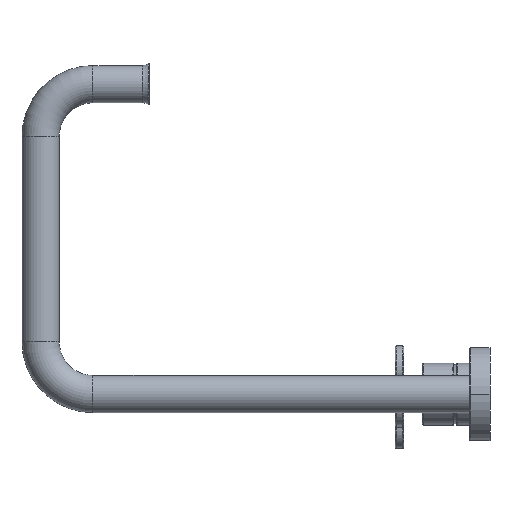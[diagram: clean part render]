
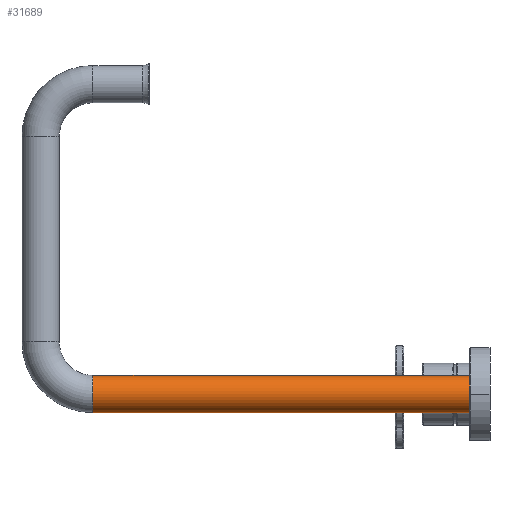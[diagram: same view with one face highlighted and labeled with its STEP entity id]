
A CAD part, left-side view. The second image highlights one B-rep face of the part: STEP entity #31689.
In plain terms, the highlighted cylindrical face has radius 12 mm (diameter 24 mm), a partial arc.
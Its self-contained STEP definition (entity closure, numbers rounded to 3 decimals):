
#30057=DIRECTION('',(0.,1.,0.));
#30058=VECTOR('',#30057,243.25);
#30059=CARTESIAN_POINT('',(0.,6.3,12.));
#30060=LINE('',#30059,#30058);
#30076=CARTESIAN_POINT('',(0.,6.3,0.));
#30077=DIRECTION('',(0.,1.,0.));
#30078=DIRECTION('',(0.,0.,-1.));
#30079=AXIS2_PLACEMENT_3D('',#30076,#30077,#30078);
#30117=DIRECTION('',(0.,1.,0.));
#30118=VECTOR('',#30117,243.25);
#30119=CARTESIAN_POINT('',(0.,6.3,-12.));
#30120=LINE('',#30119,#30118);
#30121=CARTESIAN_POINT('',(0.,249.55,0.));
#30122=DIRECTION('',(0.,1.,0.));
#30123=DIRECTION('',(0.,0.,-1.));
#30124=AXIS2_PLACEMENT_3D('',#30121,#30122,#30123);
#30199=CARTESIAN_POINT('',(0.,249.55,12.));
#30200=CARTESIAN_POINT('',(0.,249.55,-12.));
#30201=VERTEX_POINT('',#30199);
#30202=VERTEX_POINT('',#30200);
#30247=CARTESIAN_POINT('',(0.,6.3,12.));
#30248=CARTESIAN_POINT('',(0.,6.3,-12.));
#30249=VERTEX_POINT('',#30247);
#30250=VERTEX_POINT('',#30248);
#31677=CARTESIAN_POINT('',(0.,6.3,0.));
#31678=DIRECTION('',(0.,1.,0.));
#31679=DIRECTION('',(0.,0.,1.));
#31680=AXIS2_PLACEMENT_3D('',#31677,#31678,#31679);
#31681=CYLINDRICAL_SURFACE('',#31680,12.);
#31682=ORIENTED_EDGE('',*,*,#31564,.F.);
#31683=ORIENTED_EDGE('',*,*,#31540,.T.);
#31685=ORIENTED_EDGE('',*,*,#31684,.T.);
#31686=ORIENTED_EDGE('',*,*,#31537,.F.);
#31687=EDGE_LOOP('',(#31682,#31683,#31685,#31686));
#31688=FACE_OUTER_BOUND('',#31687,.F.);
#30080=CIRCLE('',#30079,12.);
#30125=CIRCLE('',#30124,12.);
#31537=EDGE_CURVE('',#30249,#30201,#30060,.T.);
#31540=EDGE_CURVE('',#30250,#30202,#30120,.T.);
#31564=EDGE_CURVE('',#30250,#30249,#30080,.T.);
#31684=EDGE_CURVE('',#30202,#30201,#30125,.T.);
#31689=ADVANCED_FACE('',(#31688),#31681,.T.);
